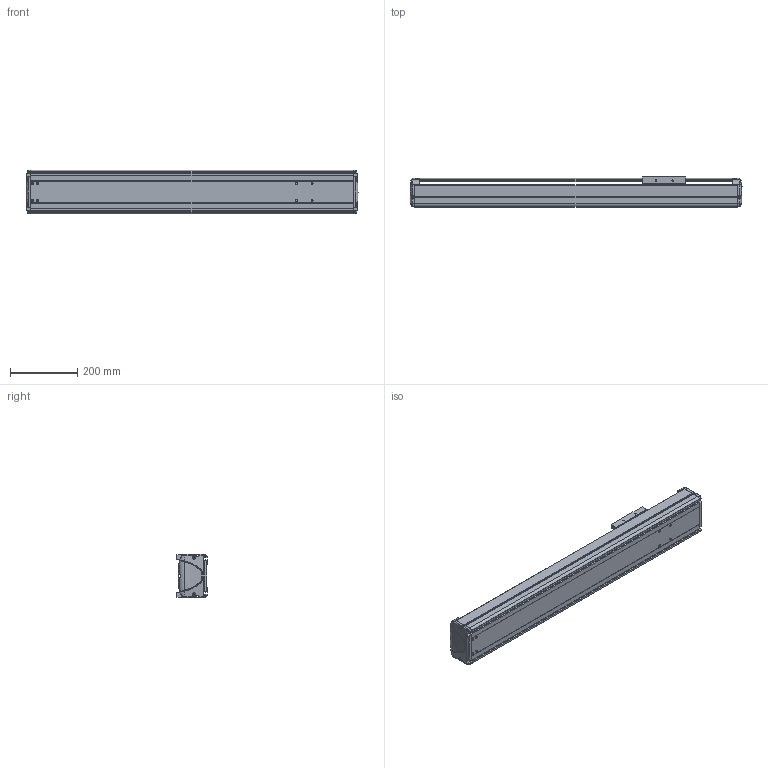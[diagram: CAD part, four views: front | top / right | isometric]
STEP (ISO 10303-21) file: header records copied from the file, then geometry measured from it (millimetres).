
FILE_DESCRIPTION((''),'2;1');
FILE_NAME('BE30E-ST-M_N-65_IGS_PRT','2017-06-17T',(' '),(''),'PRO/ENGINEER BY PARAMETRIC TECHNOLOGY CORPORATION, 2015030','PRO/ENGINEER BY PARAMETRIC TECHNOLOGY CORPORATION, 2015030','');
FILE_SCHEMA(('CONFIG_CONTROL_DESIGN'));
Length unit declared in the file: millimetre
Products named in the file (1): BE30E-ST-M_N-65_IGS_PRT
Bounding box: 990 x 89.8 x 130 mm (x, y, z)
Volume: 3030827.2 mm3; surface area: 1204197.9 mm2
Topology: 3 solids, 82 shells, 1328 faces, 3553 edges, 2323 vertices
Faces by surface type: cylinder 591, plane 582, bspline 55, torus 44, cone 32, sphere 24
Entity records: 44464 total; most frequent: CARTESIAN_POINT 11160, DIRECTION 6870, ORIENTED_EDGE 6756, EDGE_CURVE 3533, AXIS2_PLACEMENT_3D 2480, VERTEX_POINT 2323, VECTOR 1910, LINE 1910
